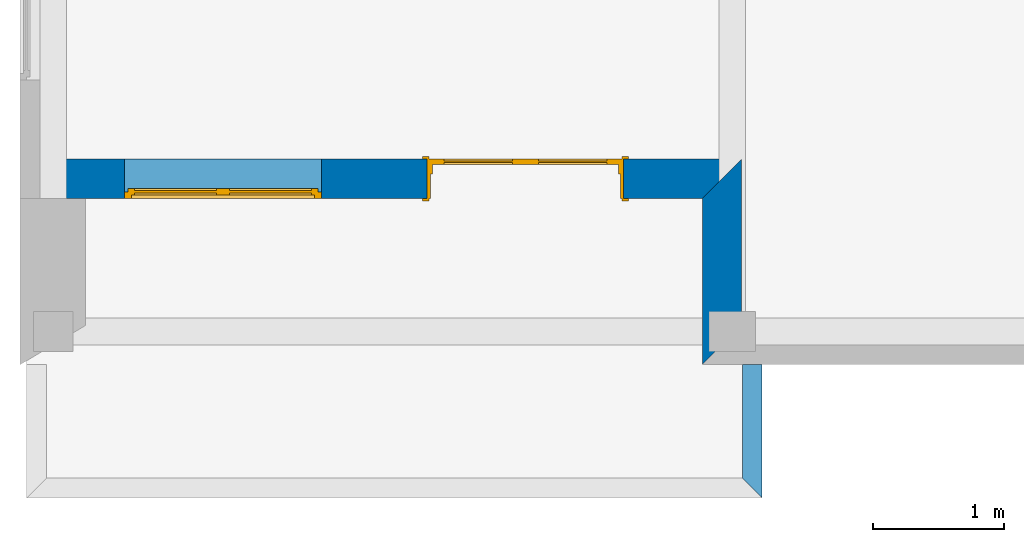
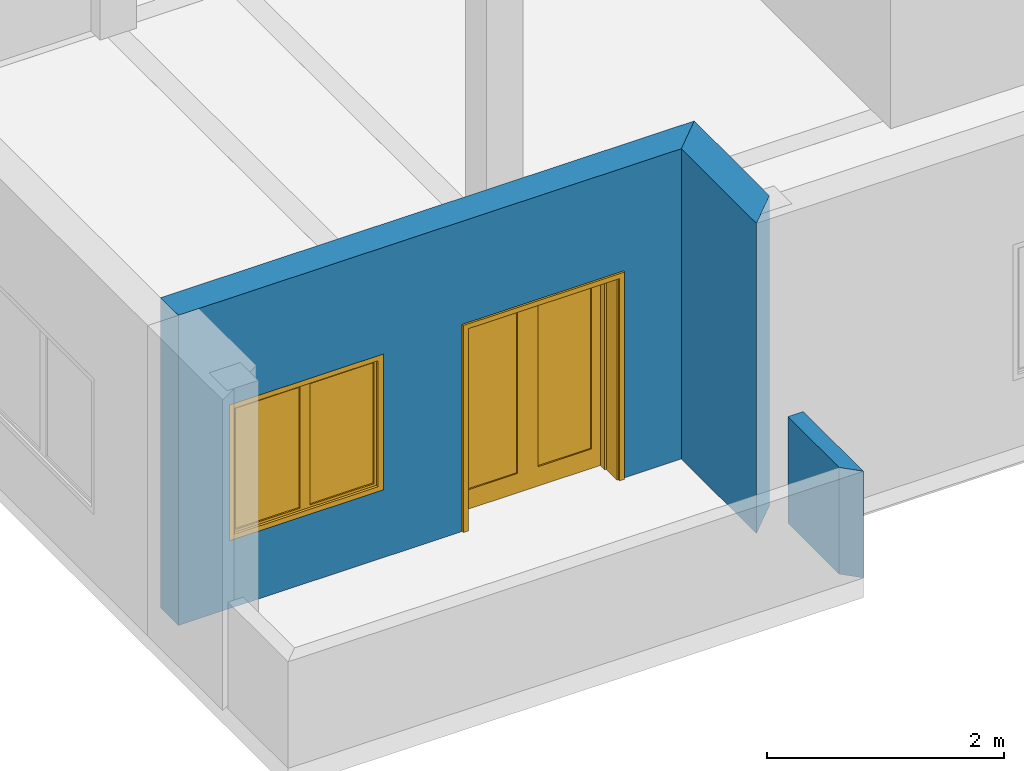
# One storey, part 2 of 6: 3 walls, 1 door, 1 window, 2 openings.
"""IFC2X3 building model written with IfcOpenShell, lengths in millimetres."""

from ifc_helpers import new_model, entity, si_unit, converted_unit, direction, frame, origin_with_axes, origin_2d_with_axis, place, context, subcontext, project, spatial, polyline, rectangle, outline, extrude, faceted_brep, source, transform, mapped, material, layer, layer_set, layer_usage, type_object, element, fill, save


model = new_model("IFC2X3")

# Units and contexts
model_context = context("Model", 3, precision=1e-05, world=origin_with_axes(), true_north=direction((0.0, 1.0)))
body_context = subcontext(model_context, "Body", "Model", "MODEL_VIEW")
ifc_project = project(units=[si_unit("LENGTHUNIT", "METRE", prefix="MILLI"), si_unit("AREAUNIT", "SQUARE_METRE"), si_unit("VOLUMEUNIT", "CUBIC_METRE"), converted_unit("PLANEANGLEUNIT", "DEGREE", entity("IfcPlaneAngleMeasure", 0.017453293), si_unit("PLANEANGLEUNIT", "RADIAN"), dimensions=[0, 0, 0, 0, 0, 0, 0]), si_unit("SOLIDANGLEUNIT", "STERADIAN"), si_unit("MASSUNIT", "GRAM"), si_unit("TIMEUNIT", "SECOND"), si_unit("THERMODYNAMICTEMPERATUREUNIT", "DEGREE_CELSIUS"), si_unit("LUMINOUSINTENSITYUNIT", "LUMEN")], contexts=[model_context])

# Site, building, storey
site_placement = place(None, origin_with_axes())
site = spatial("IfcSite", under=ifc_project, at=site_placement, Name="Sitio", CompositionType="ELEMENT")
building_placement = place(site_placement, origin_with_axes())
building = spatial("IfcBuilding", under=site, at=building_placement, Name="Ejemplo_StruBIM", CompositionType="ELEMENT")
storey_placement = place(building_placement, frame((0.0, 0.0, 12801.6), z_axis=(0.0, 0.0, 1.0), x_axis=(1.0, 0.0, 0.0)))
storey = spatial("IfcBuildingStorey", under=building, at=storey_placement, Name="Fourth floor", CompositionType="ELEMENT", Elevation=12801.6)

# Wall, openings, door, window
ifc_material_1 = material(Name="Bloque mampostería")
ifc_layer_1 = layer(ifc_material_1, 300.0, ventilated="UNKNOWN")
ifc_layer_set_1 = layer_set([ifc_layer_1], Name="Bloque mampostería 300")
ifc_layer_usage_1 = layer_usage(ifc_layer_set_1, "AXIS2", "POSITIVE", 0.0)
wall_type_1 = type_object("IfcWallType", Name="Bloque mampostería 11 3/4\"", PredefinedType="NOTDEFINED")
wall_1_placement = place(storey_placement, frame((-254.0, 1016.0, 0.0), z_axis=(0.0, 0.0, 1.0), x_axis=(1.0, 0.0, 0.0)))
wall_1 = element("IfcWallStandardCase", 1, at=wall_1_placement, inside=storey, type_object=wall_type_1, material=ifc_layer_usage_1, Name="Muro-014", context=body_context, shape_type="SweptSolid", body=[
    extrude(outline(polyline([(300.0, 0.0), (5207.0, 0.0), (5507.0, 300.0), (300.0, 300.0), (300.0, 0.0)])), origin_with_axes(), (0.0, 0.0, 1.0), 3200.4),
])
opening_1_placement = place(wall_1_placement, frame((1549.4, 0.0, 700.0), z_axis=(0.0, 0.0, 1.0), x_axis=(1.0, 0.0, 0.0)))
opening_1 = element("IfcOpeningElement", 2, at=opening_1_placement, cuts=wall_1, Name="V01", context=body_context, shape_type="SweptSolid", body=[
    extrude(rectangle(XDim=1500.0, YDim=1400.0, at=origin_2d_with_axis()), frame((0.0, 300.0, 700.0), z_axis=(0.0, 1.0, 0.0), x_axis=(1.0, 0.0, 0.0)), (0.0, 0.0, -1.0), 300.0),
])
opening_2_placement = place(wall_1_placement, frame((3857.0, 0.0, 0.0), z_axis=(0.0, 0.0, 1.0), x_axis=(1.0, 0.0, 0.0)))
opening_2 = element("IfcOpeningElement", 3, at=opening_2_placement, cuts=wall_1, Name="P04", context=body_context, shape_type="SweptSolid", body=[
    extrude(rectangle(XDim=1500.0, YDim=2100.0, at=origin_2d_with_axis()), frame((0.0, 0.0, 1050.0), z_axis=(0.0, -1.0, 0.0), x_axis=(1.0, 0.0, 0.0)), (0.0, 0.0, -1.0), 300.0),
    extrude(rectangle(XDim=1574.0, YDim=2137.0, at=origin_2d_with_axis()), frame((0.0, 0.0, 1068.5), z_axis=(0.0, -1.0, 0.0), x_axis=(1.0, 0.0, 0.0)), (0.0, 0.0, 1.0), 300.0),
    extrude(rectangle(XDim=1574.0, YDim=2137.0, at=origin_2d_with_axis()), frame((0.0, 300.0, 1068.5), z_axis=(0.0, 1.0, 0.0), x_axis=(1.0, 0.0, 0.0)), (0.0, 0.0, 1.0), 300.0),
])
ifc_material_2 = material(Name="Fondo")
door_style = type_object("IfcDoorStyle", Name="Puerta Doble 16", ConstructionType="NOTDEFINED", OperationType="SINGLE_SWING_LEFT", ParameterTakesPrecedence=False, Sizeable=False)
shared_shape_1 = source(origin_with_axes(), body_context, "Body", "Brep", [
    faceted_brep([(750.0, -115.0, 0.0), (750.0, -300.0, 0.0), (725.0, -300.0, 0.0), (725.0, -115.0, 0.0), (750.0, -115.0, 2100.0), (750.0, -300.0, 2100.0), (725.0, -300.0, 2075.0), (725.0, -115.0, 2075.0)], [[[0, 1, 2, 3]], [[4, 5, 1, 0]], [[1, 5, 6, 2]], [[3, 2, 6, 7]], [[0, 3, 7, 4]], [[7, 6, 5, 4]]]),
    faceted_brep([(-750.0, -115.0, 2100.0), (-750.0, -300.0, 2100.0), (-725.0, -300.0, 2075.0), (-725.0, -115.0, 2075.0), (-750.0, -115.0, 0.0), (-750.0, -300.0, 0.0), (-725.0, -300.0, 0.0), (-725.0, -115.0, 0.0)], [[[0, 1, 2, 3]], [[4, 5, 1, 0]], [[1, 5, 6, 2]], [[3, 2, 6, 7]], [[0, 3, 7, 4]], [[7, 6, 5, 4]]]),
    faceted_brep([(725.0, -115.0, 2075.0), (725.0, -300.0, 2075.0), (-725.0, -300.0, 2075.0), (-725.0, -115.0, 2075.0), (750.0, -115.0, 2100.0), (750.0, -300.0, 2100.0), (-750.0, -300.0, 2100.0), (-750.0, -115.0, 2100.0)], [[[0, 1, 2, 3]], [[4, 5, 1, 0]], [[1, 5, 6, 2]], [[3, 2, 6, 7]], [[0, 3, 7, 4]], [[7, 6, 5, 4]]]),
    faceted_brep([(787.0, -319.0, 0.0), (737.0, -319.0, 0.0), (737.0, -300.0, 0.0), (787.0, -300.0, 0.0), (787.0, -319.0, 2137.0), (737.0, -319.0, 2087.0), (737.0, -300.0, 2087.0), (787.0, -300.0, 2137.0)], [[[0, 1, 2, 3]], [[0, 4, 5, 1]], [[1, 5, 6, 2]], [[3, 2, 6, 7]], [[4, 0, 3, 7]], [[5, 4, 7, 6]]]),
    faceted_brep([(-787.0, -319.0, 2137.0), (-737.0, -319.0, 2087.0), (-737.0, -300.0, 2087.0), (-787.0, -300.0, 2137.0), (-787.0, -319.0, 0.0), (-737.0, -319.0, 0.0), (-737.0, -300.0, 0.0), (-787.0, -300.0, 0.0)], [[[0, 1, 2, 3]], [[0, 4, 5, 1]], [[1, 5, 6, 2]], [[3, 2, 6, 7]], [[4, 0, 3, 7]], [[5, 4, 7, 6]]]),
    faceted_brep([(787.0, -319.0, 2137.0), (737.0, -319.0, 2087.0), (737.0, -300.0, 2087.0), (787.0, -300.0, 2137.0), (-787.0, -319.0, 2137.0), (-737.0, -319.0, 2087.0), (-737.0, -300.0, 2087.0), (-787.0, -300.0, 2137.0)], [[[0, 1, 2, 3]], [[0, 4, 5, 1]], [[1, 5, 6, 2]], [[3, 2, 6, 7]], [[4, 0, 3, 7]], [[5, 4, 7, 6]]]),
    faceted_brep([(787.0, 19.0, 0.0), (787.0, 0.0, 0.0), (737.0, 0.0, 0.0), (737.0, 19.0, 0.0), (787.0, 19.0, 2137.0), (787.0, 0.0, 2137.0), (737.0, 0.0, 2087.0), (737.0, 19.0, 2087.0)], [[[0, 1, 2, 3]], [[4, 5, 1, 0]], [[1, 5, 6, 2]], [[3, 2, 6, 7]], [[0, 3, 7, 4]], [[7, 6, 5, 4]]]),
    faceted_brep([(-787.0, 19.0, 2137.0), (-787.0, 0.0, 2137.0), (-737.0, 0.0, 2087.0), (-737.0, 19.0, 2087.0), (-787.0, 19.0, 0.0), (-787.0, 0.0, 0.0), (-737.0, 0.0, 0.0), (-737.0, 19.0, 0.0)], [[[0, 1, 2, 3]], [[4, 5, 1, 0]], [[1, 5, 6, 2]], [[3, 2, 6, 7]], [[0, 3, 7, 4]], [[7, 6, 5, 4]]]),
    faceted_brep([(787.0, 19.0, 2137.0), (787.0, 0.0, 2137.0), (737.0, 0.0, 2087.0), (737.0, 19.0, 2087.0), (-787.0, 19.0, 2137.0), (-787.0, 0.0, 2137.0), (-737.0, 0.0, 2087.0), (-737.0, 19.0, 2087.0)], [[[0, 1, 2, 3]], [[4, 5, 1, 0]], [[1, 5, 6, 2]], [[3, 2, 6, 7]], [[0, 3, 7, 4]], [[7, 6, 5, 4]]]),
    faceted_brep([(710.0, -40.0, 0.0), (710.0, -115.0, 0.0), (710.0, -115.0, 2060.0), (710.0, -40.0, 2060.0), (722.0, -40.0, 0.0), (722.0, 2.2351741e-07, 0.0), (750.0, 2.2351741e-07, -3.8951635e-07), (750.0, -115.0, 0.0), (750.0, -115.0, 2060.0), (722.0, -40.0, 2060.0), (750.0, 2.2351741e-07, 2060.0), (722.0, 2.2351741e-07, 2060.0)], [[[0, 1, 2, 3]], [[4, 5, 6, 7, 1, 0]], [[8, 2, 1, 7]], [[9, 3, 2, 8, 10, 11]], [[9, 4, 0, 3]], [[11, 5, 4, 9]], [[11, 10, 6, 5]], [[7, 6, 10, 8]]]),
    faceted_brep([(-722.0, -40.0, 2060.0), (-722.0, 2.2351741e-07, 2060.0), (-750.0, 2.2351741e-07, 2060.0), (-750.0, -115.0, 2060.0), (-710.0, -115.0, 2060.0), (-710.0, -40.0, 2060.0), (-722.0, -40.0, 0.0), (-722.0, 2.2351741e-07, 0.0), (-750.0, 2.2351741e-07, -3.8951635e-07), (-750.0, -115.0, 0.0), (-710.0, -115.0, 0.0), (-710.0, -40.0, 0.0)], [[[0, 1, 2, 3, 4, 5]], [[0, 6, 7, 1]], [[7, 8, 2, 1]], [[3, 2, 8, 9]], [[10, 4, 3, 9]], [[5, 4, 10, 11]], [[5, 11, 6, 0]], [[6, 11, 10, 9, 8, 7]]]),
    faceted_brep([(722.0, 2.2351741e-07, 2072.0), (-722.0, 2.2351741e-07, 2072.0), (-722.0, 2.2351741e-07, 2060.0), (-750.0, 2.2351741e-07, 2060.0), (-750.0, 2.2351741e-07, 2100.0), (750.0, 2.2351741e-07, 2100.0), (750.0, 2.2351741e-07, 2060.0), (722.0, 2.2351741e-07, 2060.0), (722.0, -40.0, 2072.0), (-722.0, -40.0, 2072.0), (-722.0, -40.0, 2060.0), (-710.0, -40.0, 2060.0), (-710.0, -115.0, 2060.0), (-750.0, -115.0, 2060.0), (-750.0, -115.0, 2100.0), (750.0, -115.0, 2100.0), (750.0, -115.0, 2060.0), (722.0, -40.0, 2060.0), (710.0, -115.0, 2060.0), (710.0, -40.0, 2060.0)], [[[0, 1, 2, 3, 4, 5, 6, 7]], [[0, 8, 9, 1]], [[1, 9, 10, 2]], [[10, 11, 12, 13, 3, 2]], [[14, 4, 3, 13]], [[15, 5, 4, 14]], [[16, 6, 5, 15]], [[17, 7, 6, 16, 18, 19]], [[7, 17, 8, 0]], [[10, 9, 8, 17, 19, 11]], [[19, 18, 12, 11]], [[14, 13, 12, 18, 16, 15]]]),
    faceted_brep([(-722.0, 0.0, 200.0), (-622.0, 0.0, 200.0), (-622.0, -40.0, 200.0), (-722.0, -40.0, 200.0), (-722.0, 0.0, 1972.0), (-622.0, 0.0, 1972.0), (-622.0, -40.0, 1972.0), (-722.0, -40.0, 1972.0)], [[[0, 1, 2, 3]], [[0, 4, 5, 1]], [[1, 5, 6, 2]], [[3, 2, 6, 7]], [[4, 0, 3, 7]], [[5, 4, 7, 6]]]),
    faceted_brep([(0.0, 0.0, 200.0), (0.0, 0.0, 1972.0), (0.0, -40.0, 1972.0), (0.0, -40.0, 200.0), (-100.0, 0.0, 200.0), (-100.0, 0.0, 1972.0), (-100.0, -40.0, 1972.0), (-100.0, -40.0, 200.0)], [[[0, 1, 2, 3]], [[0, 4, 5, 1]], [[1, 5, 6, 2]], [[3, 2, 6, 7]], [[4, 0, 3, 7]], [[5, 4, 7, 6]]]),
    faceted_brep([(-722.0, 0.0, 0.0), (0.0, 0.0, 0.0), (0.0, -40.0, 0.0), (-722.0, -40.0, 0.0), (-722.0, 0.0, 200.0), (-622.0, 0.0, 200.0), (-100.0, 0.0, 200.0), (0.0, 0.0, 200.0), (0.0, -40.0, 200.0), (-100.0, -40.0, 200.0), (-622.0, -40.0, 200.0), (-722.0, -40.0, 200.0)], [[[0, 1, 2, 3]], [[0, 4, 5, 6, 7, 1]], [[1, 7, 8, 2]], [[3, 2, 8, 9, 10, 11]], [[4, 0, 3, 11]], [[5, 4, 11, 10]], [[6, 5, 10, 9]], [[7, 6, 9, 8]]]),
    faceted_brep([(-722.0, 0.0, 2072.0), (-722.0, 0.0, 1972.0), (-722.0, -40.0, 1972.0), (-722.0, -40.0, 2072.0), (0.0, 0.0, 2072.0), (0.0, 0.0, 1972.0), (-100.0, 0.0, 1972.0), (-622.0, 0.0, 1972.0), (-622.0, -40.0, 1972.0), (-100.0, -40.0, 1972.0), (0.0, -40.0, 1972.0), (0.0, -40.0, 2072.0)], [[[0, 1, 2, 3]], [[0, 4, 5, 6, 7, 1]], [[1, 7, 8, 2]], [[3, 2, 8, 9, 10, 11]], [[4, 0, 3, 11]], [[5, 4, 11, 10]], [[6, 5, 10, 9]], [[7, 6, 9, 8]]]),
    faceted_brep([(-622.0, -14.0, 200.0), (-100.0, -14.0, 200.0), (-100.0, -26.0, 200.0), (-622.0, -26.0, 200.0), (-622.0, -14.0, 1972.0), (-100.0, -14.0, 1972.0), (-100.0, -26.0, 1972.0), (-622.0, -26.0, 1972.0)], [[[0, 1, 2, 3]], [[0, 4, 5, 1]], [[1, 5, 6, 2]], [[3, 2, 6, 7]], [[4, 0, 3, 7]], [[5, 4, 7, 6]]]),
    faceted_brep([(722.0, 0.0, 200.0), (722.0, -40.0, 200.0), (622.0, -40.0, 200.0), (622.0, 0.0, 200.0), (722.0, 0.0, 1972.0), (722.0, -40.0, 1972.0), (622.0, -40.0, 1972.0), (622.0, 0.0, 1972.0)], [[[0, 1, 2, 3]], [[4, 5, 1, 0]], [[1, 5, 6, 2]], [[3, 2, 6, 7]], [[0, 3, 7, 4]], [[7, 6, 5, 4]]]),
    faceted_brep([(0.0, 0.0, 200.0), (0.0, -40.0, 200.0), (0.0, -40.0, 1972.0), (0.0, 0.0, 1972.0), (100.0, 0.0, 200.0), (100.0, -40.0, 200.0), (100.0, -40.0, 1972.0), (100.0, 0.0, 1972.0)], [[[0, 1, 2, 3]], [[4, 5, 1, 0]], [[1, 5, 6, 2]], [[3, 2, 6, 7]], [[0, 3, 7, 4]], [[7, 6, 5, 4]]]),
    faceted_brep([(722.0, 0.0, 0.0), (722.0, -40.0, 0.0), (0.0, -40.0, 0.0), (0.0, 0.0, 0.0), (722.0, 0.0, 200.0), (722.0, -40.0, 200.0), (622.0, -40.0, 200.0), (100.0, -40.0, 200.0), (0.0, -40.0, 200.0), (0.0, 0.0, 200.0), (100.0, 0.0, 200.0), (622.0, 0.0, 200.0)], [[[0, 1, 2, 3]], [[4, 5, 1, 0]], [[1, 5, 6, 7, 8, 2]], [[3, 2, 8, 9]], [[0, 3, 9, 10, 11, 4]], [[11, 6, 5, 4]], [[10, 7, 6, 11]], [[9, 8, 7, 10]]]),
    faceted_brep([(722.0, 0.0, 2072.0), (722.0, -40.0, 2072.0), (722.0, -40.0, 1972.0), (722.0, 0.0, 1972.0), (0.0, 0.0, 2072.0), (0.0, -40.0, 2072.0), (0.0, -40.0, 1972.0), (100.0, -40.0, 1972.0), (622.0, -40.0, 1972.0), (622.0, 0.0, 1972.0), (100.0, 0.0, 1972.0), (0.0, 0.0, 1972.0)], [[[0, 1, 2, 3]], [[4, 5, 1, 0]], [[1, 5, 6, 7, 8, 2]], [[3, 2, 8, 9]], [[0, 3, 9, 10, 11, 4]], [[11, 6, 5, 4]], [[10, 7, 6, 11]], [[9, 8, 7, 10]]]),
    faceted_brep([(622.0, -14.0, 200.0), (622.0, -26.0, 200.0), (100.0, -26.0, 200.0), (100.0, -14.0, 200.0), (622.0, -14.0, 1972.0), (622.0, -26.0, 1972.0), (100.0, -26.0, 1972.0), (100.0, -14.0, 1972.0)], [[[0, 1, 2, 3]], [[4, 5, 1, 0]], [[1, 5, 6, 2]], [[3, 2, 6, 7]], [[0, 3, 7, 4]], [[7, 6, 5, 4]]]),
])
door_placement = place(opening_2_placement, frame((-750.0, 0.0, 0.0), z_axis=(0.0, 0.0, 1.0), x_axis=(1.0, 0.0, 0.0)))
door = element("IfcDoor", 4, at=door_placement, inside=storey, type_object=door_style, material=ifc_material_2, Name="P04", OverallHeight=2100.0, OverallWidth=1500.0, context=body_context, shape_type="MappedRepresentation", body=[
    mapped(shared_shape_1, transform((750.0, 300.0, 0.0))),
])
fill(opening_2, door)
window_style = type_object("IfcWindowStyle", Name="Ventana Doble Hoja 16", ConstructionType="NOTDEFINED", OperationType="DOUBLE_PANEL_HORIZONTAL", ParameterTakesPrecedence=False, Sizeable=False)
shared_shape_2 = source(origin_with_axes(), body_context, "Body", "Brep", [
    faceted_brep([(725.0, -50.0, 1350.0), (750.0, -50.0, 1350.0), (750.0, 0.0, 1350.0), (700.0, 0.0, 1350.0), (700.0, -25.0, 1350.0), (725.0, -25.0, 1350.0), (725.0, -50.0, 50.0), (750.0, -50.0, 50.0), (750.0, 0.0, 50.0), (700.0, 0.0, 50.0), (700.0, -25.0, 50.0), (725.0, -25.0, 50.0)], [[[0, 1, 2, 3, 4, 5]], [[6, 7, 1, 0]], [[1, 7, 8, 2]], [[2, 8, 9, 3]], [[4, 3, 9, 10]], [[10, 11, 5, 4]], [[5, 11, 6, 0]], [[11, 10, 9, 8, 7, 6]]]),
    faceted_brep([(-700.0, -25.0, 1350.0), (-700.0, 0.0, 1350.0), (-750.0, 0.0, 1350.0), (-750.0, -50.0, 1350.0), (-725.0, -50.0, 1350.0), (-725.0, -25.0, 1350.0), (-700.0, -25.0, 50.0), (-700.0, 0.0, 50.0), (-750.0, 0.0, 50.0), (-750.0, -50.0, 50.0), (-725.0, -50.0, 50.0), (-725.0, -25.0, 50.0)], [[[0, 1, 2, 3, 4, 5]], [[6, 7, 1, 0]], [[8, 2, 1, 7]], [[9, 3, 2, 8]], [[4, 3, 9, 10]], [[10, 11, 5, 4]], [[5, 11, 6, 0]], [[11, 10, 9, 8, 7, 6]]]),
    faceted_brep([(-700.0, -25.0, 50.0), (-700.0, 0.0, 50.0), (-750.0, 0.0, 50.0), (-750.0, -50.0, 50.0), (-725.0, -50.0, 50.0), (-725.0, -25.0, 50.0), (700.0, -25.0, 50.0), (700.0, 0.0, 50.0), (750.0, 0.0, 50.0), (750.0, 0.0, 0.0), (-750.0, 0.0, 0.0), (-750.0, -50.0, 0.0), (725.0, -50.0, 25.0), (-725.0, -50.0, 25.0), (750.0, -50.0, 0.0), (750.0, -50.0, 50.0), (725.0, -50.0, 50.0), (-725.0, -25.0, 25.0), (725.0, -25.0, 25.0), (725.0, -25.0, 50.0)], [[[0, 1, 2, 3, 4, 5]], [[6, 7, 1, 0]], [[8, 9, 10, 2, 1, 7]], [[11, 3, 2, 10]], [[12, 13, 4, 3, 11, 14, 15, 16]], [[13, 17, 5, 4]], [[5, 17, 18, 19, 6, 0]], [[19, 16, 15, 8, 7, 6]], [[15, 14, 9, 8]], [[14, 11, 10, 9]], [[12, 18, 17, 13]], [[19, 18, 12, 16]]]),
    faceted_brep([(725.0, -50.0, 1350.0), (750.0, -50.0, 1350.0), (750.0, -50.0, 1400.0), (-750.0, -50.0, 1400.0), (-750.0, -50.0, 1350.0), (-725.0, -50.0, 1350.0), (-725.0, -50.0, 1375.0), (725.0, -50.0, 1375.0), (725.0, -25.0, 1350.0), (700.0, -25.0, 1350.0), (700.0, 0.0, 1350.0), (750.0, 0.0, 1350.0), (750.0, 0.0, 1400.0), (-750.0, 0.0, 1400.0), (-750.0, 0.0, 1350.0), (-725.0, -25.0, 1350.0), (-700.0, 0.0, 1350.0), (-700.0, -25.0, 1350.0), (-725.0, -25.0, 1375.0), (725.0, -25.0, 1375.0)], [[[0, 1, 2, 3, 4, 5, 6, 7]], [[8, 9, 10, 11, 1, 0]], [[2, 1, 11, 12]], [[3, 2, 12, 13]], [[4, 3, 13, 14]], [[15, 5, 4, 14, 16, 17]], [[5, 15, 18, 6]], [[6, 18, 19, 7]], [[7, 19, 8, 0]], [[17, 9, 8, 19, 18, 15]], [[17, 16, 10, 9]], [[14, 13, 12, 11, 10, 16]]]),
    faceted_brep([(675.0, -25.0, 1325.0), (675.0, -75.0, 1325.0), (725.0, -75.0, 1325.0), (725.0, -25.0, 1325.0), (675.0, -25.0, 75.0), (675.0, -75.0, 75.0), (725.0, -75.0, 75.0), (725.0, -25.0, 75.0)], [[[0, 1, 2, 3]], [[4, 5, 1, 0]], [[1, 5, 6, 2]], [[3, 2, 6, 7]], [[0, 3, 7, 4]], [[7, 6, 5, 4]]]),
    faceted_brep([(50.0, -25.0, 75.0), (50.0, -75.0, 75.0), (0.0, -75.0, 75.0), (0.0, -25.0, 75.0), (50.0, -25.0, 1325.0), (50.0, -75.0, 1325.0), (0.0, -75.0, 1325.0), (0.0, -25.0, 1325.0)], [[[0, 1, 2, 3]], [[4, 5, 1, 0]], [[1, 5, 6, 2]], [[3, 2, 6, 7]], [[0, 3, 7, 4]], [[7, 6, 5, 4]]]),
    faceted_brep([(0.0, -25.0, 25.0), (0.0, -75.0, 25.0), (0.0, -75.0, 75.0), (0.0, -25.0, 75.0), (725.0, -25.0, 25.0), (725.0, -75.0, 25.0), (725.0, -75.0, 75.0), (675.0, -75.0, 75.0), (50.0, -75.0, 75.0), (50.0, -25.0, 75.0), (675.0, -25.0, 75.0), (725.0, -25.0, 75.0)], [[[0, 1, 2, 3]], [[4, 5, 1, 0]], [[1, 5, 6, 7, 8, 2]], [[3, 2, 8, 9]], [[0, 3, 9, 10, 11, 4]], [[11, 6, 5, 4]], [[10, 7, 6, 11]], [[9, 8, 7, 10]]]),
    faceted_brep([(725.0, -25.0, 1375.0), (725.0, -75.0, 1375.0), (725.0, -75.0, 1325.0), (725.0, -25.0, 1325.0), (0.0, -25.0, 1375.0), (0.0, -75.0, 1375.0), (0.0, -75.0, 1325.0), (50.0, -75.0, 1325.0), (675.0, -75.0, 1325.0), (675.0, -25.0, 1325.0), (50.0, -25.0, 1325.0), (0.0, -25.0, 1325.0)], [[[0, 1, 2, 3]], [[4, 5, 1, 0]], [[1, 5, 6, 7, 8, 2]], [[3, 2, 8, 9]], [[0, 3, 9, 10, 11, 4]], [[11, 6, 5, 4]], [[10, 7, 6, 11]], [[9, 8, 7, 10]]]),
    faceted_brep([(675.0, -40.0, 75.0), (675.0, -60.0, 75.0), (50.0, -60.0, 75.0), (50.0, -40.0, 75.0), (675.0, -40.0, 1325.0), (675.0, -60.0, 1325.0), (50.0, -60.0, 1325.0), (50.0, -40.0, 1325.0)], [[[0, 1, 2, 3]], [[4, 5, 1, 0]], [[1, 5, 6, 2]], [[3, 2, 6, 7]], [[0, 3, 7, 4]], [[7, 6, 5, 4]]]),
    faceted_brep([(-50.0, -25.0, 1325.0), (-50.0, -75.0, 1325.0), (0.0, -75.0, 1325.0), (0.0, -25.0, 1325.0), (-50.0, -25.0, 75.0), (-50.0, -75.0, 75.0), (0.0, -75.0, 75.0), (0.0, -25.0, 75.0)], [[[0, 1, 2, 3]], [[4, 5, 1, 0]], [[1, 5, 6, 2]], [[3, 2, 6, 7]], [[0, 3, 7, 4]], [[7, 6, 5, 4]]]),
    faceted_brep([(-675.0, -25.0, 75.0), (-675.0, -75.0, 75.0), (-725.0, -75.0, 75.0), (-725.0, -25.0, 75.0), (-675.0, -25.0, 1325.0), (-675.0, -75.0, 1325.0), (-725.0, -75.0, 1325.0), (-725.0, -25.0, 1325.0)], [[[0, 1, 2, 3]], [[4, 5, 1, 0]], [[1, 5, 6, 2]], [[3, 2, 6, 7]], [[0, 3, 7, 4]], [[7, 6, 5, 4]]]),
    faceted_brep([(-725.0, -25.0, 25.0), (-725.0, -75.0, 25.0), (-725.0, -75.0, 75.0), (-725.0, -25.0, 75.0), (0.0, -25.0, 25.0), (0.0, -75.0, 25.0), (0.0, -75.0, 75.0), (-50.0, -75.0, 75.0), (-675.0, -75.0, 75.0), (-675.0, -25.0, 75.0), (-50.0, -25.0, 75.0), (0.0, -25.0, 75.0)], [[[0, 1, 2, 3]], [[4, 5, 1, 0]], [[1, 5, 6, 7, 8, 2]], [[3, 2, 8, 9]], [[0, 3, 9, 10, 11, 4]], [[11, 6, 5, 4]], [[10, 7, 6, 11]], [[9, 8, 7, 10]]]),
    faceted_brep([(0.0, -25.0, 1375.0), (0.0, -75.0, 1375.0), (0.0, -75.0, 1325.0), (0.0, -25.0, 1325.0), (-725.0, -25.0, 1375.0), (-725.0, -75.0, 1375.0), (-725.0, -75.0, 1325.0), (-675.0, -75.0, 1325.0), (-50.0, -75.0, 1325.0), (-50.0, -25.0, 1325.0), (-675.0, -25.0, 1325.0), (-725.0, -25.0, 1325.0)], [[[0, 1, 2, 3]], [[4, 5, 1, 0]], [[1, 5, 6, 7, 8, 2]], [[3, 2, 8, 9]], [[0, 3, 9, 10, 11, 4]], [[11, 6, 5, 4]], [[10, 7, 6, 11]], [[9, 8, 7, 10]]]),
    faceted_brep([(-50.0, -40.0, 75.0), (-50.0, -60.0, 75.0), (-675.0, -60.0, 75.0), (-675.0, -40.0, 75.0), (-50.0, -40.0, 1325.0), (-50.0, -60.0, 1325.0), (-675.0, -60.0, 1325.0), (-675.0, -40.0, 1325.0)], [[[0, 1, 2, 3]], [[4, 5, 1, 0]], [[1, 5, 6, 2]], [[3, 2, 6, 7]], [[0, 3, 7, 4]], [[7, 6, 5, 4]]]),
])
window_placement = place(opening_1_placement, frame((750.0, 0.0, 0.0), z_axis=(0.0, 0.0, 1.0), x_axis=(-1.0, 0.0, 0.0)))
window = element("IfcWindow", 5, at=window_placement, inside=storey, type_object=window_style, material=ifc_material_2, Name="V01", OverallHeight=1400.0, OverallWidth=1500.0, context=body_context, shape_type="MappedRepresentation", body=[
    mapped(shared_shape_2, transform((750.0, 0.0, 0.0))),
])
fill(opening_1, window)

# Walls
ifc_layer_usage_2 = layer_usage(ifc_layer_set_1, "AXIS2", "POSITIVE", 0.0)
wall_2_placement = place(storey_placement, frame((4953.0, 1016.0, 0.0), z_axis=(0.0, 0.0, 1.0), x_axis=(0.0, -1.0, 0.0)))
element("IfcWallStandardCase", 6, at=wall_2_placement, inside=storey, type_object=wall_type_1, material=ifc_layer_usage_2, Name="Muro-015", context=body_context, shape_type="SweptSolid", body=[
    extrude(outline(polyline([(0.0, 0.0), (1270.0, 0.0), (970.0, 300.0), (-300.0, 300.0), (0.0, 0.0)])), origin_with_axes(), (0.0, 0.0, 1.0), 3200.4),
])
ifc_layer_2 = layer(ifc_material_1, 150.0, ventilated="UNKNOWN")
ifc_layer_set_2 = layer_set([ifc_layer_2], Name="Bloque mampostería 150")
ifc_layer_usage_3 = layer_usage(ifc_layer_set_2, "AXIS2", "NEGATIVE", 0.0)
wall_type_2 = type_object("IfcWallType", Name="Bloque mampostería 6\"", PredefinedType="NOTDEFINED")
wall_3_placement = place(storey_placement, frame((5410.2, -254.0, 0.0), z_axis=(0.0, 0.0, 1.0), x_axis=(0.0, -1.0, 0.0)))
element("IfcWallStandardCase", 7, at=wall_3_placement, inside=storey, type_object=wall_type_2, material=ifc_layer_usage_3, Name="Muro-015", context=body_context, shape_type="SweptSolid", body=[
    extrude(outline(polyline([(0.0, -150.0), (866.0, -150.0), (1016.0, 0.0), (0.0, 0.0), (0.0, -150.0)])), origin_with_axes(), (0.0, 0.0, 1.0), 1100.0),
])

save(model, "model.ifc")
